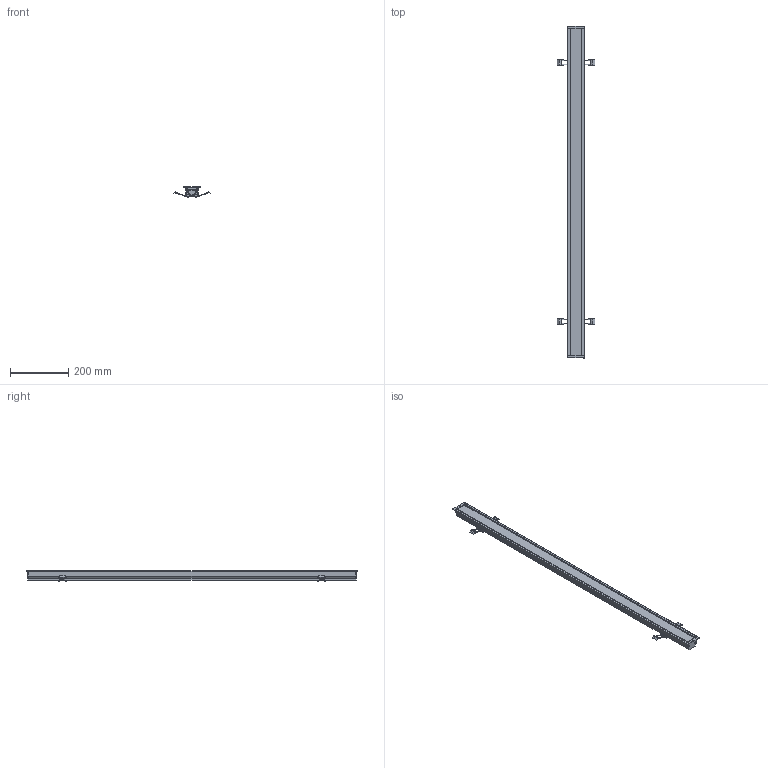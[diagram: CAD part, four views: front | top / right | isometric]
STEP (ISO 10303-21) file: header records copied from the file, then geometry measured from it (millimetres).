
FILE_DESCRIPTION(/* description */ (''),/* implementation_level */ '2;1');
FILE_NAME(/* name */ 'C:\Users\FrancoSartori\Documents\FARO\01_En Proceso\0000_2022\000_PRO\00_VIA EVOLUTION\01_RFA_3D_Trabajo\RECESSED_1140.stp',/* time_stamp */ '2022-07-28T12:38:34+02:00',/* author */ ('FrancoSartori'),/* organization */ (''),/* preprocessor_version */ 'ST-DEVELOPER v19',/* originating_system */ 'AutoCAD Mechanical',/* authorisation */ '');
FILE_SCHEMA (('AUTOMOTIVE_DESIGN { 1 0 10303 214 3 1 1 }'));
Products named in the file (2): Product; VIA_R - 00-721768-View 1
Assembly tree (1 placements, depth 2):
  Product
    VIA_R - 00-721768-View 1
Bounding box: 128.04 x 1140 x 35.19 mm (x, y, z)
Volume: 412750 mm3; surface area: 629774.3 mm2
Topology: 23 solids, 43 shells, 868 faces, 2366 edges, 1552 vertices
Faces by surface type: plane 502, cylinder 250, torus 80, sphere 16, cone 16, bspline 4
Entity records: 46376 total; most frequent: CARTESIAN_POINT 24381, ORIENTED_EDGE 4628, DIRECTION 4420, EDGE_CURVE 2366, VERTEX_POINT 1552, AXIS2_PLACEMENT_3D 1495, LINE 1430, VECTOR 1430
